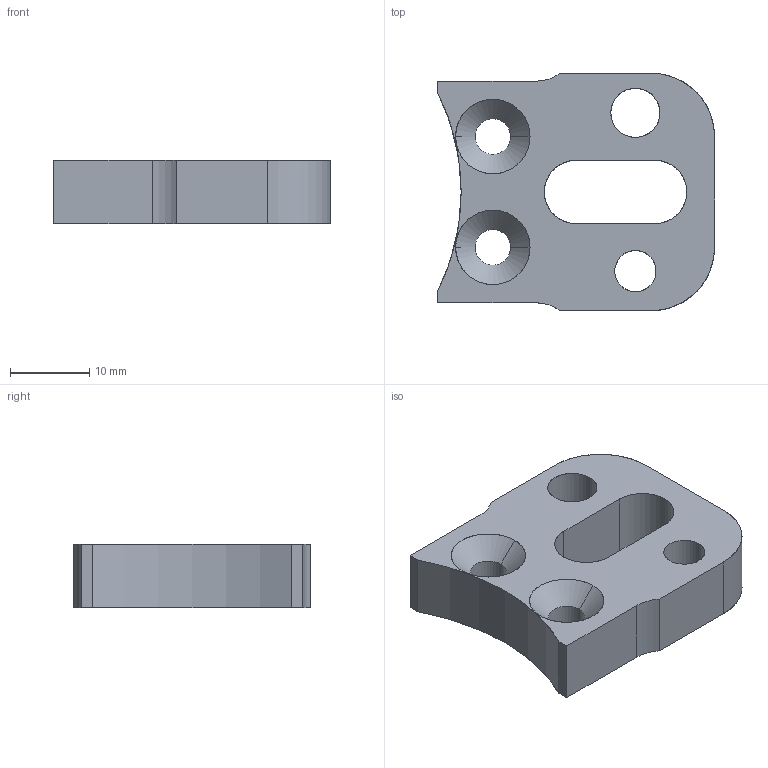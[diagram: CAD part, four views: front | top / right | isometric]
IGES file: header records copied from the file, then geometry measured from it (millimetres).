
Start section: SolidWorks IGES file using analytic representation for surfaces
Global section: file name: C:\@ SW-Test\HW730\Befestigungsarm HW730.IGS; native system: SolidWorks 2017; preprocessor: SolidWorks 2017; author: stu; date: 171122.080506; units: millimetre
Bounding box: 35 x 30 x 8 mm (x, y, z)
Surface area: 3261.8 mm2 (no closed solid volume)
Topology: 0 solids, 0 shells, 35 faces, 534 edges, 534 vertices
Faces by surface type: revolution 24, bspline 11
